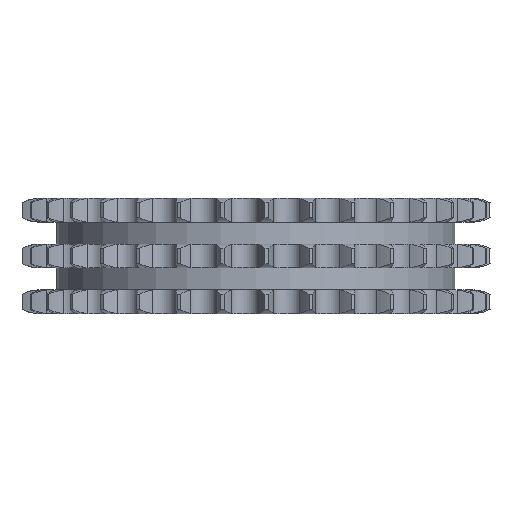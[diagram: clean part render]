
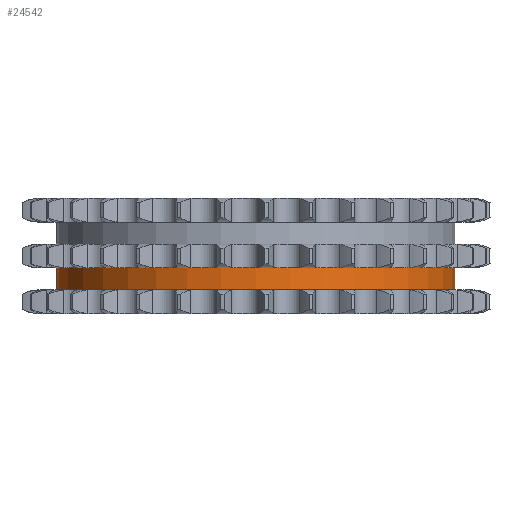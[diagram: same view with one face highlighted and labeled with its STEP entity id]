
A CAD part, left-side view. The second image highlights one B-rep face of the part: STEP entity #24542.
In plain terms, the highlighted cylindrical face has radius 44.102 mm (diameter 88.204 mm), a partial arc.
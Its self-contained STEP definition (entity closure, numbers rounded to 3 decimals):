
#5855=DIRECTION('',(0.,0.,-1.));
#5856=VECTOR('',#5855,4.85);
#5857=CARTESIAN_POINT('',(0.,44.102,-2.65));
#5858=LINE('',#5857,#5856);
#5862=CARTESIAN_POINT('',(0.,0.,-2.65));
#5863=DIRECTION('',(0.,0.,1.));
#5864=DIRECTION('',(0.,1.,0.));
#5865=AXIS2_PLACEMENT_3D('',#5862,#5863,#5864);
#5870=DIRECTION('',(0.,0.,-1.));
#5871=VECTOR('',#5870,4.85);
#5872=CARTESIAN_POINT('',(0.,-44.102,-2.65));
#5873=LINE('',#5872,#5871);
#5877=CARTESIAN_POINT('',(0.,0.,-7.5));
#5878=DIRECTION('',(0.,0.,1.));
#5879=DIRECTION('',(0.,1.,0.));
#5880=AXIS2_PLACEMENT_3D('',#5877,#5878,#5879);
#18781=CARTESIAN_POINT('',(0.,44.102,-2.65));
#18782=CARTESIAN_POINT('',(0.,44.102,-7.5));
#18783=VERTEX_POINT('',#18781);
#18784=VERTEX_POINT('',#18782);
#18785=CARTESIAN_POINT('',(0.,-44.102,-2.65));
#18786=CARTESIAN_POINT('',(0.,-44.102,-7.5));
#18787=VERTEX_POINT('',#18785);
#18788=VERTEX_POINT('',#18786);
#24530=CARTESIAN_POINT('',(0.,0.,8.25));
#24531=DIRECTION('',(0.,0.,-1.));
#24532=DIRECTION('',(0.,-1.,0.));
#24533=AXIS2_PLACEMENT_3D('',#24530,#24531,#24532);
#24534=CYLINDRICAL_SURFACE('',#24533,44.102);
#24535=ORIENTED_EDGE('',*,*,#24520,.F.);
#24536=ORIENTED_EDGE('',*,*,#24510,.T.);
#24537=ORIENTED_EDGE('',*,*,#24524,.T.);
#24539=ORIENTED_EDGE('',*,*,#24538,.F.);
#24540=EDGE_LOOP('',(#24535,#24536,#24537,#24539));
#24541=FACE_OUTER_BOUND('',#24540,.F.);
#24542=ADVANCED_FACE('',(#24541),#24534,.T.);
#5866=CIRCLE('',#5865,44.102);
#5881=CIRCLE('',#5880,44.102);
#24510=EDGE_CURVE('',#18783,#18787,#5866,.T.);
#24520=EDGE_CURVE('',#18783,#18784,#5858,.T.);
#24524=EDGE_CURVE('',#18787,#18788,#5873,.T.);
#24538=EDGE_CURVE('',#18784,#18788,#5881,.T.);
